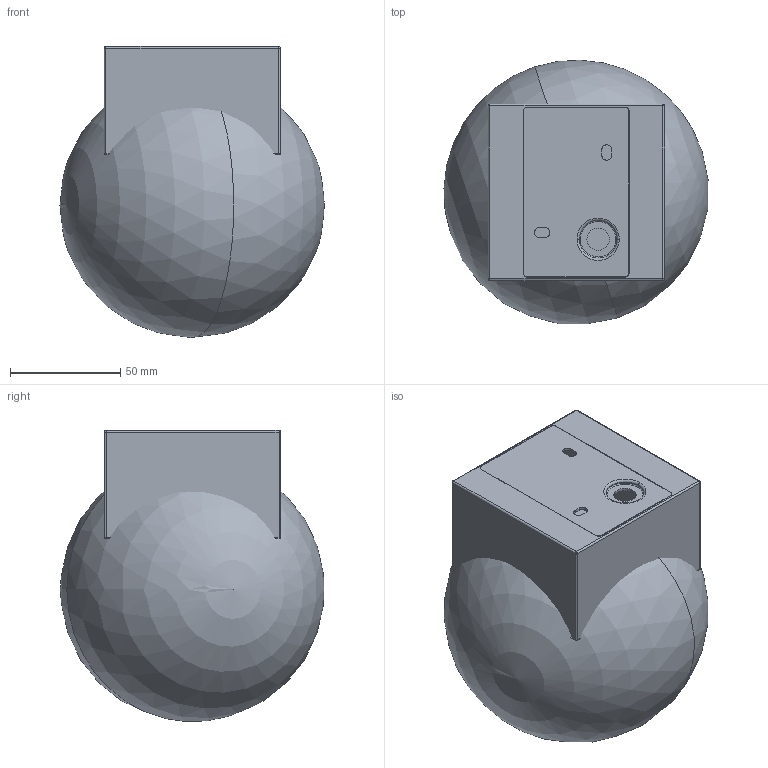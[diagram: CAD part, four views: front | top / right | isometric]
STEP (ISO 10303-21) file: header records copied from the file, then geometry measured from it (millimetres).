
FILE_DESCRIPTION(/* description */ (''),/* implementation_level */ '2;1');
FILE_NAME(/* name */ '63503.step',/* time_stamp */ '2025-02-19T16:06:13+01:00',/* author */ ('RenataManzini'),/* organization */ (''),/* preprocessor_version */ 'ST-DEVELOPER v20',/* originating_system */ 'AutoCAD Mechanical',/* authorisation */ '');
FILE_SCHEMA (('AUTOMOTIVE_DESIGN { 1 0 10303 214 3 1 1 }'));
Length unit declared in the file: millimetre
Products named in the file (4): Product; XHZDZ9-6; DB; BL
Assembly tree (3 placements, depth 2):
  Product
    XHZDZ9-6
    DB
    BL
Bounding box: 119.68 x 119.46 x 131.96 mm (x, y, z)
Volume: 129462.7 mm3; surface area: 138901.7 mm2
Topology: 3 solids, 3 shells, 195 faces, 470 edges, 292 vertices
Faces by surface type: cylinder 80, plane 65, torus 30, sphere 20
Entity records: 5881 total; most frequent: DIRECTION 1114, CARTESIAN_POINT 1032, ORIENTED_EDGE 932, EDGE_CURVE 466, AXIS2_PLACEMENT_3D 454, VERTEX_POINT 292, CIRCLE 252, EDGE_LOOP 228
